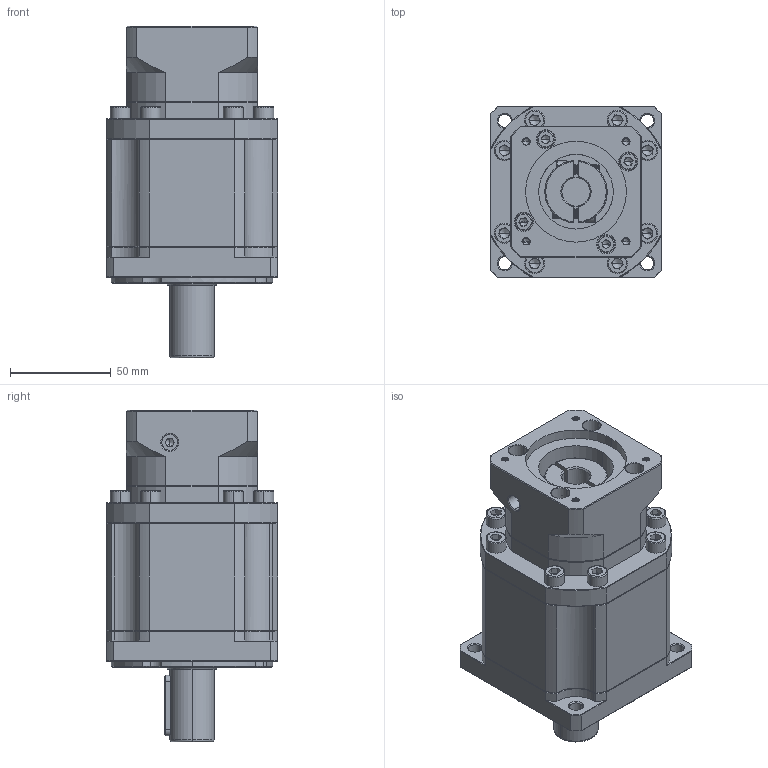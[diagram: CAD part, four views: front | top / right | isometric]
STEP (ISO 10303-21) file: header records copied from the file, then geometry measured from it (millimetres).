
FILE_DESCRIPTION (( 'STEP AP214' ), '1' );
FILE_NAME ('ZB090-D22-L3-P2-14-50-70-M4.step', '2023-08-18T13:38:09', ( '' ), ( '' ), 'SwSTEP 2.0', 'SolidWorks 2016', '' );
FILE_SCHEMA (( 'AUTOMOTIVE_DESIGN' ));
Length unit declared in the file: millimetre
Products named in the file (1): ZB090-D22-L3-P2-14-50-70-M4
Bounding box: 85 x 85 x 164.5 mm (x, y, z)
Volume: 666392.3 mm3; surface area: 82613.4 mm2
Topology: 6 solids, 6 shells, 2348 faces, 6245 edges, 3993 vertices
Faces by surface type: plane 1185, bspline 426, cylinder 394, cone 321, torus 22
Entity records: 123110 total; most frequent: CARTESIAN_POINT 42230, ORIENTED_EDGE 12398, DIRECTION 9884, EDGE_CURVE 6199, VERTEX_POINT 3993, VECTOR 3924, LINE 3924, AXIS2_PLACEMENT_3D 2980
